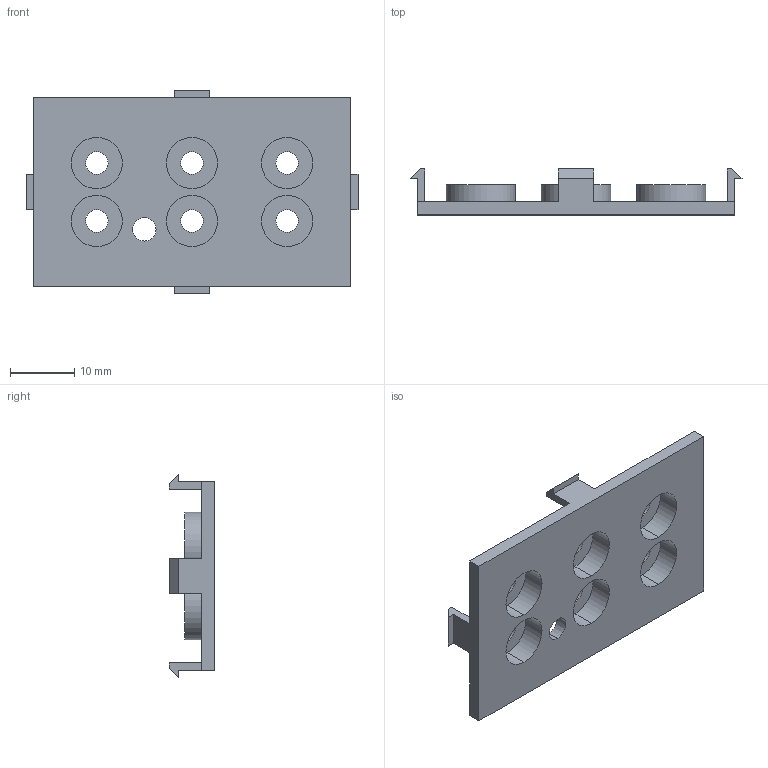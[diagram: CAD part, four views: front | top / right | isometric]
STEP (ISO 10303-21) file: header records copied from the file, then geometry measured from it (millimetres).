
FILE_DESCRIPTION (( 'STEP AP214' ), '1' );
FILE_NAME ('Tapeta Botones PP75.STEP', '2017-10-05T07:45:02', ( 'aaa' ), ( '' ), 'SwSTEP 2.0', 'SolidWorks 2013', '' );
FILE_SCHEMA (( 'AUTOMOTIVE_DESIGN' ));
Length unit declared in the file: millimetre
Products named in the file (1): Tapeta Botones PP75
Bounding box: 51.62 x 7.15 x 31.6 mm (x, y, z)
Volume: 3354.6 mm3; surface area: 4484.2 mm2
Topology: 1 solids, 1 shells, 77 faces, 195 edges, 130 vertices
Faces by surface type: plane 40, cylinder 35, cone 2
Entity records: 2405 total; most frequent: DIRECTION 425, CARTESIAN_POINT 403, ORIENTED_EDGE 390, EDGE_CURVE 195, AXIS2_PLACEMENT_3D 152, VERTEX_POINT 130, LINE 121, VECTOR 121
